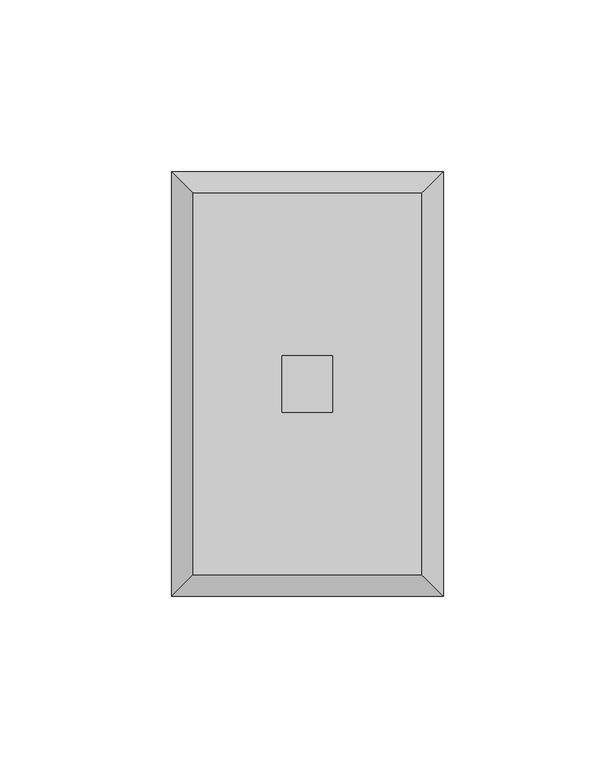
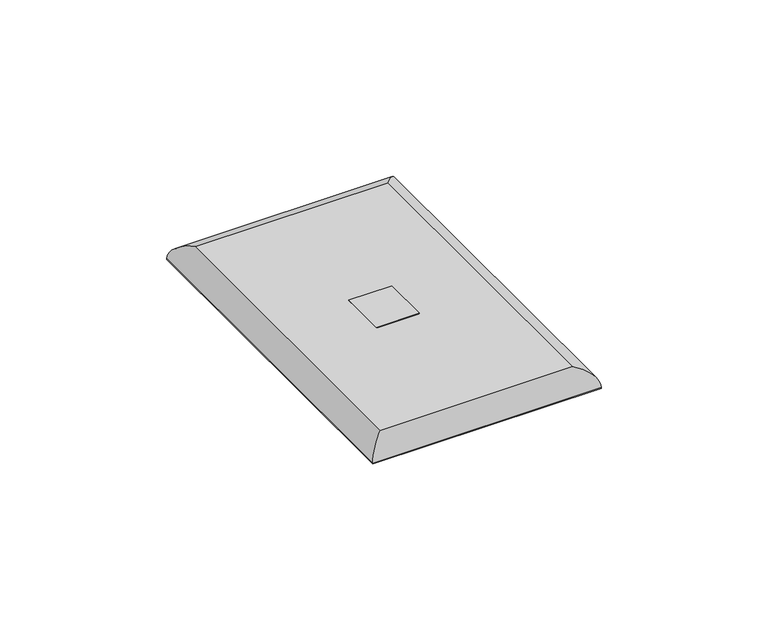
"""IFC4 building model written with IfcOpenShell, lengths in millimetres: electric appliance geometry, Data_Device-Work_Area-Leviton-QuickPort-Wallplate : 1 Port, Single Gang, Midsize."""

from ifc_helpers import new_model, si_unit, frame, origin, origin_with_axes, place, context, project, spatial, polyline, ellipse_curve, outline, extrude, source, transform, mapped, element, save
from ifc_brep_helpers import plane_surface, cylinder_surface, advanced_brep


def electric_appliance_76ba4eb6(model_context):
    return source(origin(), model_context, "Body", "SolidModel", [
        extrude(outline(polyline([(-15.6591, 16.4465), (-15.6591, -0.0635), (-30.3911, -0.0635), (-30.3911, 16.4465), (-15.6591, 16.4465)])), origin_with_axes(), (0.0, 0.0, 1.0), 6.35),
        advanced_brep(
        [(10.2489, -47.3075, 6.35), (10.2489, 63.6905, 6.35), (-56.2991, 63.6905, 6.35), (-56.2991, -47.3075, 6.35), (-30.3911, 16.4465, 6.35), (-15.6591, 16.4465, 6.35), (-15.6591, -0.0635, 6.35), (-30.3911, -0.0635, 6.35), (16.5989, 70.0405, 0.0), (16.5989, -53.6575, 0.0), (-62.6491, -53.6575, 0.0), (-62.6491, 70.0405, 0.0), (-15.6591, 16.4465, 0.0), (-30.3911, 16.4465, 0.0), (-30.3911, -0.0635, 0.0), (-15.6591, -0.0635, 0.0), (-62.6491, 70.0405, 0.254), (16.5989, 70.0405, 0.254), (-62.6491, -53.6575, 0.254), (16.5989, -53.6575, 0.254)],
        [
            (0, 1),
            (1, 2),
            (2, 3),
            (3, 0),
            (4, 5),
            (5, 6),
            (6, 7),
            (7, 4),
            (8, 9),
            (9, 10),
            (10, 11),
            (11, 8),
            (12, 13),
            (13, 14),
            (14, 15),
            (15, 12),
            (11, 16),
            (16, 17),
            (17, 8),
            (10, 18),
            (18, 16),
            (9, 19),
            (19, 18),
            (17, 19),
            (4, 13),
            (12, 5),
            (7, 14),
            (6, 15),
            (0, 19, ellipse_curve(frame((10.2489, -47.3075, -0.0052917), z_axis=(0.7071067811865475, 0.7071067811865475, 0.0), x_axis=(0.7071067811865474, -0.7071067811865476, 0.0)), 8.9877397, 6.3552917)),
            (17, 1, ellipse_curve(frame((10.2489, 63.6905, -0.0052917), z_axis=(0.7071067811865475, -0.7071067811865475, 0.0), x_axis=(-0.7071067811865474, -0.7071067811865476, 0.0)), 8.9877397, 6.3552917)),
            (3, 18, ellipse_curve(frame((-56.2991, -47.3075, -0.0052917), z_axis=(0.7071067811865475, -0.7071067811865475, 0.0), x_axis=(-0.7071067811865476, -0.7071067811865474, 0.0)), 8.9877397, 6.3552917)),
            (2, 16, ellipse_curve(frame((-56.2991, 63.6905, -0.0052917), z_axis=(-0.7071067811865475, -0.7071067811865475, 0.0), x_axis=(-0.7071067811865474, 0.7071067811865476, 0.0)), 8.9877397, 6.3552917)),
        ],
        [
            plane_surface(frame((-62.6491, 70.0405, 6.35), z_axis=(0.0, 0.0, 1.0), x_axis=(-1.0, 0.0, 0.0))),
            plane_surface(frame((-62.6491, 70.0405, 0.0), z_axis=(0.0, 0.0, -1.0), x_axis=(1.0, 0.0, 0.0))),
            plane_surface(frame((16.5989, 70.0405, 6.35), z_axis=(0.0, 1.0, 0.0), x_axis=(0.0, 0.0, -1.0))),
            plane_surface(frame((-62.6491, 70.0405, 6.35), z_axis=(-1.0, 0.0, 0.0), x_axis=(0.0, 0.0, -1.0))),
            plane_surface(frame((-62.6491, -53.6575, 6.35), z_axis=(0.0, -1.0, 0.0), x_axis=(0.0, 0.0, -1.0))),
            plane_surface(frame((16.5989, -53.6575, 6.35), z_axis=(1.0, 0.0, 0.0), x_axis=(0.0, 0.0, -1.0))),
            plane_surface(frame((-15.6591, 16.4465, 6.35), z_axis=(0.0, -1.0, 0.0), x_axis=(0.0, 0.0, -1.0))),
            plane_surface(frame((-30.3911, 16.4465, 6.35), z_axis=(1.0, 0.0, 0.0), x_axis=(0.0, 0.0, -1.0))),
            plane_surface(frame((-30.3911, -0.0635, 6.35), z_axis=(0.0, 1.0, 0.0), x_axis=(0.0, 0.0, -1.0))),
            plane_surface(frame((-15.6591, -0.0635, 6.35), z_axis=(-1.0, 0.0, 0.0), x_axis=(0.0, 0.0, -1.0))),
            cylinder_surface(frame((10.2489, 70.0405, -0.0052917), z_axis=(0.0, -1.0, 0.0), x_axis=(1.0, 0.0, 0.0)), 6.3552917),
            cylinder_surface(frame((16.5989, -47.3075, -0.0052917), z_axis=(-1.0, 0.0, 0.0), x_axis=(0.0, -1.0, 0.0)), 6.3552917),
            cylinder_surface(frame((-56.2991, -53.6575, -0.0052917), z_axis=(0.0, 1.0, 0.0), x_axis=(-1.0, 0.0, 0.0)), 6.3552917),
            cylinder_surface(frame((-62.6491, 63.6905, -0.0052917), z_axis=(1.0, 0.0, 0.0), x_axis=(0.0, 1.0, 0.0)), 6.3552917),
        ],
        [
            (0, [[1, 2, 3, 4], [5, 6, 7, 8]]),
            (1, [[9, 10, 11, 12], [13, 14, 15, 16]]),
            (2, [[-12, 17, 18, 19]]),
            (3, [[-11, 20, 21, -17]]),
            (4, [[-10, 22, 23, -20]]),
            (5, [[-9, -19, 24, -22]]),
            (6, [[25, -13, 26, -5]]),
            (7, [[-25, -8, 27, -14]]),
            (8, [[-27, -7, 28, -15]]),
            (9, [[-26, -16, -28, -6]]),
            (10, [[29, -24, 30, -1]]),
            (11, [[-29, -4, 31, -23]]),
            (12, [[-31, -3, 32, -21]]),
            (13, [[-30, -18, -32, -2]]),
        ],
    ),
        extrude(outline(polyline([(16.3449, 69.7865), (16.3449, -53.4035), (-62.3951, -53.4035), (-62.3951, 69.7865), (16.3449, 69.7865)]), holes=[polyline([(-15.6591, 16.4465), (-30.3911, 16.4465), (-30.3911, -0.0635), (-15.6591, -0.0635), (-15.6591, 16.4465)])]), origin_with_axes(), (0.0, 0.0, 1.0), 0.254),
    ])


if __name__ == "__main__":
    model = new_model("IFC4")
    model_context = context("Model", 3, world=origin())
    ifc_project = project(units=[si_unit("LENGTHUNIT", "METRE", prefix="MILLI")], contexts=[model_context])
    site = spatial("IfcSite", under=ifc_project)
    building = spatial("IfcBuilding", under=site)
    placement = place(None, origin())
    electric_appliance_shape = electric_appliance_76ba4eb6(model_context)
    element("IfcElectricAppliance", 1, ObjectType="Data_Device-Work_Area-Leviton-QuickPort-Wallplate : 1 Port, Single Gang, Midsize", at=placement, inside=building, context=model_context, shape_type="MappedRepresentation", body=[
        mapped(electric_appliance_shape, transform((0.0, 0.0, 0.0), x_axis=(1.0, 0.0, 0.0), y_axis=(0.0, 1.0, 0.0), z_axis=(0.0, 0.0, 1.0))),
    ])
    save(model, "model.ifc")
